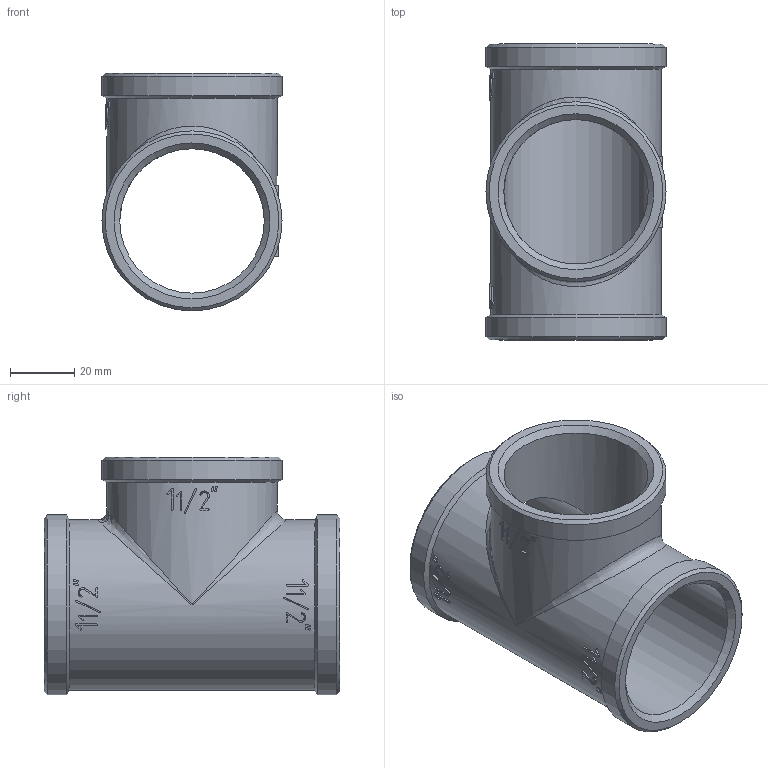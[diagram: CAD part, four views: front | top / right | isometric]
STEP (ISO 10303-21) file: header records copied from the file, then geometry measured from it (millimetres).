
FILE_DESCRIPTION(('STEP AP203'), '1');
FILE_NAME('ÂÐ.752243.006 - VTr.130.N.0008 - Ôèò. ðåçüá. òðîé', '2024-06-24T12:47:14', ('Boss'), (''), 'C3D Converter', 'C3D Toolkit', '');
FILE_SCHEMA(('CONFIG_CONTROL_DESIGN'));
Length unit declared in the file: millimetre
Products named in the file (1): ВР.752243.006
Bounding box: 56 x 92 x 74 mm (x, y, z)
Volume: 71780 mm3; surface area: 35575.5 mm2
Topology: 1 solids, 1 shells, 345 faces, 969 edges, 641 vertices
Faces by surface type: extrusion 207, plane 101, cylinder 26, cone 9, bspline 2
Full cylindrical faces by diameter (mm): 44.9 x2, 53 x2, 56 x3
Entity records: 15958 total; most frequent: CARTESIAN_POINT 8312, ORIENTED_EDGE 1894, EDGE_CURVE 947, DIRECTION 911, VERTEX_POINT 641, B_SPLINE_CURVE_WITH_KNOTS 630, VECTOR 559, EDGE_LOOP 386
